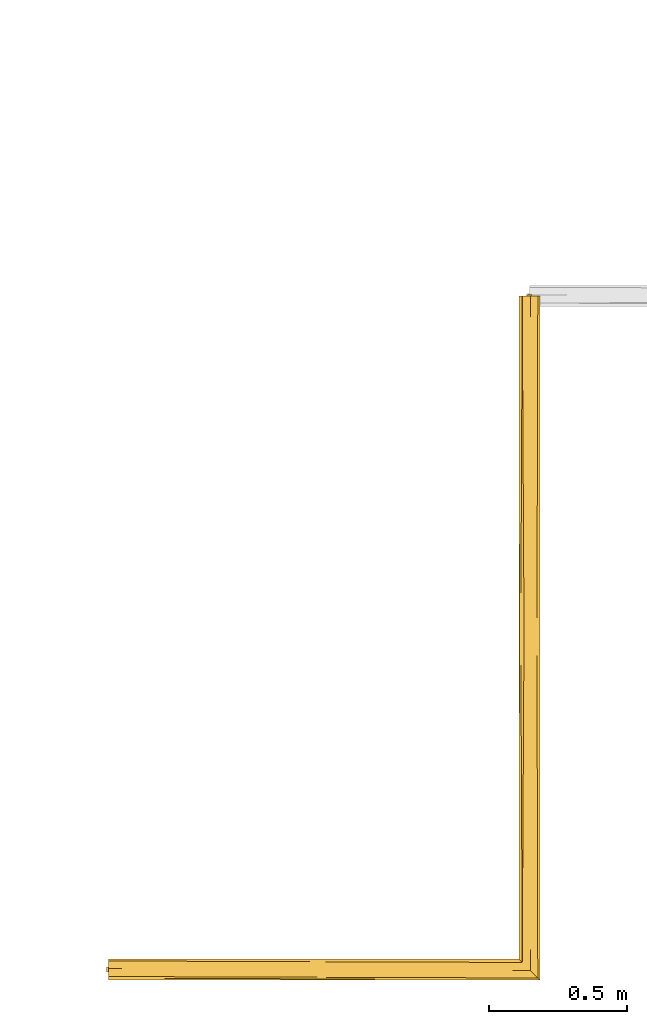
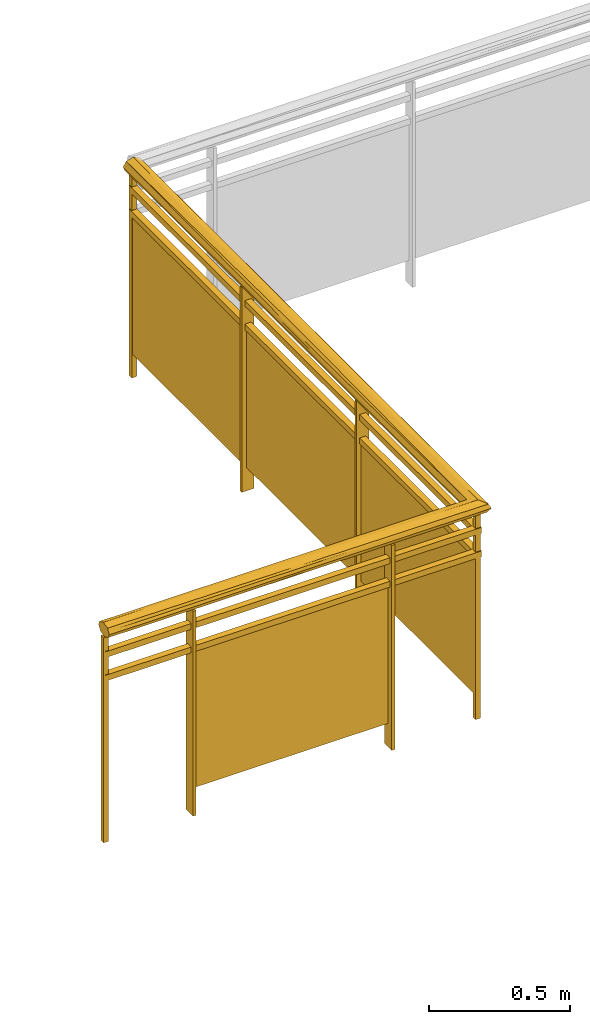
# One storey, part 3 of 3: 1 railing.
"""IFC2X3 building model written with IfcOpenShell, lengths in feet."""

from ifc_helpers import new_model, entity, si_unit, converted_unit, derived_unit, direction, frame, origin, place, context, subcontext, project, spatial, faceted_brep, material, material_list, element, save


model = new_model("IFC2X3")

# Units and contexts
model_context = context("Model", 3, precision=0.0001, world=origin(), true_north=direction((6.12303176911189e-17, 1.0)))
body_context = subcontext(model_context, "Body", "Model", "MODEL_VIEW")
ifc_project = project(units=[converted_unit("LENGTHUNIT", "FOOT", entity("IfcRatioMeasure", 0.3048), si_unit("LENGTHUNIT", "METRE"), dimensions=[1, 0, 0, 0, 0, 0, 0]), converted_unit("AREAUNIT", "SQUARE FOOT", entity("IfcRatioMeasure", 0.09290304), si_unit("AREAUNIT", "SQUARE_METRE"), dimensions=[2, 0, 0, 0, 0, 0, 0]), converted_unit("VOLUMEUNIT", "CUBIC FOOT", entity("IfcRatioMeasure", 0.028316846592), si_unit("VOLUMEUNIT", "CUBIC_METRE"), dimensions=[3, 0, 0, 0, 0, 0, 0]), converted_unit("PLANEANGLEUNIT", "DEGREE", entity("IfcRatioMeasure", 0.0174532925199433), si_unit("PLANEANGLEUNIT", "RADIAN"), dimensions=[0, 0, 0, 0, 0, 0, 0]), si_unit("MASSUNIT", "GRAM", prefix="KILO"), derived_unit("MASSDENSITYUNIT", [(si_unit("MASSUNIT", "GRAM", prefix="KILO"), 1), (si_unit("LENGTHUNIT", "METRE"), -3)]), si_unit("TIMEUNIT", "SECOND"), si_unit("FREQUENCYUNIT", "HERTZ"), si_unit("THERMODYNAMICTEMPERATUREUNIT", "DEGREE_CELSIUS"), derived_unit("THERMALTRANSMITTANCEUNIT", [(si_unit("MASSUNIT", "GRAM", prefix="KILO"), 1), (si_unit("THERMODYNAMICTEMPERATUREUNIT", "KELVIN"), -1), (si_unit("TIMEUNIT", "SECOND"), -3)]), derived_unit("VOLUMETRICFLOWRATEUNIT", [(si_unit("LENGTHUNIT", "METRE"), 3), (si_unit("TIMEUNIT", "SECOND"), -1)]), si_unit("ELECTRICCURRENTUNIT", "AMPERE"), si_unit("ELECTRICVOLTAGEUNIT", "VOLT"), si_unit("POWERUNIT", "WATT"), si_unit("FORCEUNIT", "NEWTON"), si_unit("ILLUMINANCEUNIT", "LUX"), si_unit("LUMINOUSFLUXUNIT", "LUMEN"), si_unit("LUMINOUSINTENSITYUNIT", "CANDELA"), derived_unit("USERDEFINED", [(si_unit("MASSUNIT", "GRAM", prefix="KILO"), -1), (si_unit("LENGTHUNIT", "METRE"), -2), (si_unit("TIMEUNIT", "SECOND"), 3), (si_unit("LUMINOUSFLUXUNIT", "LUMEN"), 1)]), derived_unit("LINEARVELOCITYUNIT", [(si_unit("LENGTHUNIT", "METRE"), 1), (si_unit("TIMEUNIT", "SECOND"), -1)]), si_unit("PRESSUREUNIT", "PASCAL"), derived_unit("USERDEFINED", [(si_unit("LENGTHUNIT", "METRE"), -2), (si_unit("MASSUNIT", "GRAM", prefix="KILO"), 1), (si_unit("TIMEUNIT", "SECOND"), -2)])], contexts=[model_context])

# Site, building, storey
site_placement = place(None, origin())
site = spatial("IfcSite", under=ifc_project, at=site_placement, Name="Default", CompositionType="ELEMENT")
building_placement = place(site_placement, origin())
building = spatial("IfcBuilding", under=site, at=building_placement, CompositionType="ELEMENT")
storey_placement = place(building_placement, frame((0.0, 0.0, 60.0)))
storey = spatial("IfcBuildingStorey", under=building, at=storey_placement, Name="L 11", CompositionType="ELEMENT", Elevation=60.0)

# Railing
ifc_material_1 = material(Name="Glass")
ifc_material_2 = material(Name="alum - color")
ifc_material_list = material_list([ifc_material_1, ifc_material_2])
railing_placement = place(storey_placement, frame((-21.6793294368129, -15.4672084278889, 0.0)))
element("IfcRailing", 1, at=railing_placement, inside=storey, material=ifc_material_list, Name="Railing:Glass Panel - Bottom Fill", ObjectType="Railing:Glass Panel - Bottom Fill", PredefinedType="NOTDEFINED", context=body_context, shape_type="Brep", body=[
    faceted_brep([(1.20833333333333, 0.0469004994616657, 2.90577041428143), (1.20833333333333, 0.0469004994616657, 0.0), (1.20833333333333, 0.213567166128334, 0.0), (1.20833333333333, 0.213567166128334, 2.90577041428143), (1.16666666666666, 0.0469004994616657, 2.90577041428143), (1.16666666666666, 0.0469004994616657, 0.0), (1.16666666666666, 0.213567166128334, 2.90577041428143), (1.16666666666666, 0.213567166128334, 0.0)], [[[0, 1, 2, 3]], [[4, 5, 1, 0]], [[6, 7, 5, 4]], [[3, 2, 7, 6]], [[3, 6, 4, 0]], [[1, 5, 7, 2]]]),
    faceted_brep([(3.85416666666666, 0.15167463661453, 0.333333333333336), (1.18749999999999, 0.15167463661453, 0.333333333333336), (1.18749999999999, 0.15167463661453, 2.29166666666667), (3.85416666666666, 0.15167463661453, 2.29166666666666), (3.85416666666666, 0.130841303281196, 0.333333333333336), (3.85416666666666, 0.130841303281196, 2.29166666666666), (1.18749999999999, 0.130841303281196, 2.29166666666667), (1.18749999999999, 0.130841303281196, 0.333333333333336)], [[[0, 1, 2, 3]], [[4, 5, 6, 7]], [[3, 5, 4, 0]], [[2, 6, 5, 3]], [[1, 7, 6, 2]], [[0, 4, 7, 1]]]),
    faceted_brep([(3.87499999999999, 0.0469004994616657, 2.90577041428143), (3.87499999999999, 0.0469004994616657, 0.0), (3.87499999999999, 0.213567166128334, 0.0), (3.87499999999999, 0.213567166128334, 2.90577041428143), (3.83333333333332, 0.0469004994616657, 2.90577041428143), (3.83333333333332, 0.0469004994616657, 0.0), (3.83333333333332, 0.213567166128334, 2.90577041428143), (3.83333333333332, 0.213567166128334, 0.0)], [[[0, 1, 2, 3]], [[4, 5, 1, 0]], [[6, 7, 5, 4]], [[3, 2, 7, 6]], [[3, 6, 4, 0]], [[1, 5, 7, 2]]]),
    faceted_brep([(4.99939252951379, 2.79690049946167, 0.333333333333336), (4.99939252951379, 0.130233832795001, 0.333333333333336), (4.99939252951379, 0.130233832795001, 2.29166666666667), (4.99939252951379, 2.79690049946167, 2.29166666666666), (5.02022586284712, 2.79690049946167, 0.333333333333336), (5.02022586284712, 2.79690049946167, 2.29166666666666), (5.02022586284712, 0.130233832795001, 2.29166666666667), (5.02022586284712, 0.130233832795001, 0.333333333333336)], [[[0, 1, 2, 3]], [[4, 5, 6, 7]], [[3, 5, 4, 0]], [[2, 6, 5, 3]], [[1, 7, 6, 2]], [[0, 4, 7, 1]]]),
    faceted_brep([(5.10416666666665, 2.817733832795, 2.90577041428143), (5.10416666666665, 2.817733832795, 0.0), (4.93749999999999, 2.817733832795, 0.0), (4.93749999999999, 2.817733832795, 2.90577041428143), (5.10416666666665, 2.77606716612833, 2.90577041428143), (5.10416666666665, 2.77606716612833, 0.0), (4.93749999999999, 2.77606716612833, 2.90577041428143), (4.93749999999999, 2.77606716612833, 0.0)], [[[0, 1, 2, 3]], [[4, 5, 1, 0]], [[6, 7, 5, 4]], [[3, 2, 7, 6]], [[3, 6, 4, 0]], [[1, 5, 7, 2]]]),
    faceted_brep([(4.99939252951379, 5.46356716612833, 0.333333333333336), (4.99939252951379, 2.79690049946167, 0.333333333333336), (4.99939252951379, 2.79690049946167, 2.29166666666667), (4.99939252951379, 5.46356716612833, 2.29166666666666), (5.02022586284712, 5.46356716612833, 0.333333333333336), (5.02022586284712, 5.46356716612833, 2.29166666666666), (5.02022586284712, 2.79690049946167, 2.29166666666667), (5.02022586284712, 2.79690049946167, 0.333333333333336)], [[[0, 1, 2, 3]], [[4, 5, 6, 7]], [[3, 5, 4, 0]], [[2, 6, 5, 3]], [[1, 7, 6, 2]], [[0, 4, 7, 1]]]),
    faceted_brep([(5.10416666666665, 5.48440049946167, 2.90577041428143), (5.10416666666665, 5.48440049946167, 0.0), (4.93749999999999, 5.48440049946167, 0.0), (4.93749999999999, 5.48440049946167, 2.90577041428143), (5.10416666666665, 5.442733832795, 2.90577041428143), (5.10416666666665, 5.442733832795, 0.0), (4.93749999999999, 5.442733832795, 2.90577041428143), (4.93749999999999, 5.442733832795, 0.0)], [[[0, 1, 2, 3]], [[4, 5, 1, 0]], [[6, 7, 5, 4]], [[3, 2, 7, 6]], [[3, 6, 4, 0]], [[1, 5, 7, 2]]]),
    faceted_brep([(4.99939252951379, 8.130233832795, 0.333333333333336), (4.99939252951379, 5.46356716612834, 0.333333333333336), (4.99939252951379, 5.46356716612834, 2.29166666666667), (4.99939252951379, 8.130233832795, 2.29166666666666), (5.02022586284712, 8.130233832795, 0.333333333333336), (5.02022586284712, 8.130233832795, 2.29166666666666), (5.02022586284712, 5.46356716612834, 2.29166666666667), (5.02022586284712, 5.46356716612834, 0.333333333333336)], [[[0, 1, 2, 3]], [[4, 5, 6, 7]], [[3, 5, 4, 0]], [[2, 6, 5, 3]], [[1, 7, 6, 2]], [[0, 4, 7, 1]]]),
    faceted_brep([(5.05208333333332, 0.161483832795, 2.90577041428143), (5.05208333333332, 0.161483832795, 0.0), (4.98958333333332, 0.161483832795, 0.0), (4.98958333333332, 0.161483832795, 2.90577041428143), (5.05208333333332, 0.0989838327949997, 2.90577041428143), (5.05208333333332, 0.0989838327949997, 0.0), (4.98958333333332, 0.0989838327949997, 2.90577041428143), (4.98958333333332, 0.0989838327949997, 0.0)], [[[0, 1, 2, 3]], [[4, 5, 1, 0]], [[6, 7, 5, 4]], [[3, 2, 7, 6]], [[3, 6, 4, 0]], [[1, 5, 7, 2]]]),
    faceted_brep([(0.0625, 0.0989838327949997, 2.90577041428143), (0.0625, 0.0989838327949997, 0.0), (0.0625, 0.161483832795, 0.0), (0.0625, 0.161483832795, 2.90577041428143), (0.0, 0.0989838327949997, 2.90577041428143), (0.0, 0.0989838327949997, 0.0), (0.0, 0.161483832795, 2.90577041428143), (0.0, 0.161483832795, 0.0)], [[[0, 1, 2, 3]], [[4, 5, 1, 0]], [[6, 7, 5, 4]], [[3, 2, 7, 6]], [[3, 6, 4, 0]], [[1, 5, 7, 2]]]),
    faceted_brep([(5.05208333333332, 8.15106716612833, 2.90577041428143), (5.05208333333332, 8.15106716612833, 0.0), (4.98958333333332, 8.15106716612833, 0.0), (4.98958333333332, 8.15106716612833, 2.90577041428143), (5.05208333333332, 8.08856716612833, 2.90577041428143), (5.05208333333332, 8.08856716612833, 0.0), (4.98958333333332, 8.08856716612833, 2.90577041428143), (4.98958333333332, 8.08856716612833, 0.0)], [[[0, 1, 2, 3]], [[4, 5, 1, 0]], [[6, 7, 5, 4]], [[3, 2, 7, 6]], [[3, 6, 4, 0]], [[1, 5, 7, 2]]]),
    faceted_brep([(5.06249999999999, 8.130233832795, 2.70833333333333), (5.06249999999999, 8.130233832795, 2.62499999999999), (4.97916666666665, 8.130233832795, 2.625), (4.97916666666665, 8.130233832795, 2.70833333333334), (4.97916666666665, 0.171900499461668, 2.70833333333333), (5.06249999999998, 0.0885671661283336, 2.70833333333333), (4.97916666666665, 0.171900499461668, 2.625), (5.06249999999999, 0.0885671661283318, 2.625), (0.0208333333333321, 0.0885671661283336, 2.70833333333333), (0.0208333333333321, 0.171900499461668, 2.70833333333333), (0.0208333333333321, 0.171900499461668, 2.625), (0.0208333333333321, 0.0885671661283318, 2.625)], [[[0, 1, 2, 3]], [[0, 3, 4, 5]], [[3, 2, 6, 4]], [[2, 1, 7, 6]], [[1, 0, 5, 7]], [[8, 9, 10, 11]], [[5, 4, 9, 8]], [[4, 6, 10, 9]], [[6, 7, 11, 10]], [[7, 5, 8, 11]]]),
    faceted_brep([(5.06249999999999, 8.130233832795, 2.375), (5.06249999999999, 8.130233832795, 2.29166666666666), (4.97916666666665, 8.130233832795, 2.29166666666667), (4.97916666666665, 8.130233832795, 2.37500000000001), (4.97916666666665, 0.171900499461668, 2.375), (5.06249999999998, 0.0885671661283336, 2.375), (4.97916666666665, 0.171900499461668, 2.29166666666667), (5.06249999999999, 0.0885671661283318, 2.29166666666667), (0.0208333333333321, 0.0885671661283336, 2.375), (0.0208333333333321, 0.171900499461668, 2.375), (0.0208333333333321, 0.171900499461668, 2.29166666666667), (0.0208333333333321, 0.0885671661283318, 2.29166666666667)], [[[0, 1, 2, 3]], [[0, 3, 4, 5]], [[3, 2, 6, 4]], [[2, 1, 7, 6]], [[1, 0, 5, 7]], [[8, 9, 10, 11]], [[5, 4, 9, 8]], [[4, 6, 10, 9]], [[6, 7, 11, 10]], [[7, 5, 8, 11]]]),
    faceted_brep([(5.00776727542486, 8.130233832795, 2.90676357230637), (4.96373674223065, 8.130233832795, 2.92582935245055), (4.91970620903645, 8.130233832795, 2.94489513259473), (4.90776977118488, 8.130233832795, 2.97244756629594), (4.89583333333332, 8.130233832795, 3.0), (4.91651267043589, 8.130233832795, 3.0348349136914), (4.93719200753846, 8.130233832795, 3.06966982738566), (4.98554569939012, 8.130233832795, 3.08145312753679), (5.03389939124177, 8.130233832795, 3.09323642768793), (5.07792992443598, 8.130233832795, 3.07417064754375), (5.12196045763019, 8.130233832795, 3.05510486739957), (5.13389689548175, 8.130233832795, 3.02755243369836), (5.14583333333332, 8.130233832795, 3.0), (5.12515399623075, 8.130233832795, 2.9651650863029), (5.10447465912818, 8.130233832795, 2.93033017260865), (5.05612096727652, 8.130233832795, 2.91854687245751), (5.03389939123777, 4.13676685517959, 2.90676357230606), (4.90776977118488, 0.243297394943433, 2.97244756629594), (4.90949198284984, 4.18079739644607, 2.95738769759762), (4.91970620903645, 0.231360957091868, 2.94489513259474), (5.12515399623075, 0.0259131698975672, 2.96516508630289), (5.12196045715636, 4.08841313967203, 2.9448951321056), (5.13760764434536, 4.07807343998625, 2.96655336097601), (5.10447465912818, 0.0465925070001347, 2.93033017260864), (5.08353660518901, 4.08841318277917, 2.91889832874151), (4.98240730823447, 4.13676686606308, 2.91078958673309), (4.92954232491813, 4.18079739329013, 2.93595969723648), (4.89924080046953, 3.78364768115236, 2.97825962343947), (5.08029781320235, 0.0707693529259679, 2.92443852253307), (5.05612096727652, 0.0949461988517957, 2.91854687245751), (4.96373674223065, 0.187330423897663, 2.92582935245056), (4.95384112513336, 4.20738820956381, 2.92085085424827), (4.90671106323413, 0.244356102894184, 2.97489134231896), (4.89583333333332, 0.255233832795, 3.0), (5.00776727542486, 0.143299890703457, 2.90676357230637), (4.89583333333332, 4.55774049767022, 3.0), (4.89583333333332, 4.61312962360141, 3.0), (5.14583333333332, 3.57772891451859, 3.0), (5.14583333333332, 3.52232689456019, 3.0), (5.14583333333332, 0.00523383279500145, 3.0), (5.03194412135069, 0.119123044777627, 2.91265522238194), (4.98554569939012, 0.165521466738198, 3.08145312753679), (5.03389939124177, 0.117167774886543, 3.09323642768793), (5.00776727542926, 4.14787766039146, 3.09323642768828), (5.13220914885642, 4.0796702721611, 3.04256160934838), (5.12196045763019, 0.0291067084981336, 3.05510486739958), (5.13389689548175, 0.0171702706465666, 3.02755243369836), (5.13732804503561, 0.0137391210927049, 3.01963243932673), (4.91651267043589, 0.234554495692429, 3.0348349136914), (4.93719200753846, 0.213875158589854, 3.06966982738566), (4.91976425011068, 4.17205446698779, 3.05516473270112), (4.95833333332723, 4.17205450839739, 3.08118988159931), (5.14248572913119, 4.56614973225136, 3.02155117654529), (5.07792992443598, 0.0731372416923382, 3.07417064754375), (5.05966322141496, 4.10168553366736, 3.08911199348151), (4.90446656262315, 4.18239410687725, 3.03423628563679), (5.11132213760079, 4.07967026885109, 3.06467755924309), (5.08751696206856, 4.29614994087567, 3.07929558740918), (4.9096181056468, 0.241449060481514, 3.02322082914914), (0.0208333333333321, 0.234554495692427, 2.9651650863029), (0.0208333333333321, 0.213875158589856, 2.93033017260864), (0.0208333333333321, 0.165521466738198, 2.91854687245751), (0.0208333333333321, 0.117167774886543, 2.90676357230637), (0.0208333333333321, 0.0731372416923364, 2.92582935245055), (0.0208333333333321, 0.0291067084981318, 2.94489513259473), (0.0208333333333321, 0.0171702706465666, 2.97244756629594), (0.0208333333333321, 0.00523383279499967, 3.0), (0.0208333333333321, 0.0259131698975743, 3.0348349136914), (0.0208333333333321, 0.0465925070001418, 3.06966982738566), (0.0208333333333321, 0.094946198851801, 3.08145312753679), (0.0208333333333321, 0.143299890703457, 3.09323642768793), (0.0208333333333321, 0.187330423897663, 3.07417064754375), (0.0208333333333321, 0.231360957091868, 3.05510486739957), (0.0208333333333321, 0.243297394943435, 3.02755243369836), (0.0208333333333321, 0.255233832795, 3.0), (2.55056556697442, 0.0564588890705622, 2.92431961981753), (2.89626214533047, 0.0307681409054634, 2.94321961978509), (2.24295494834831, 0.197520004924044, 2.9209912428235), (2.43610950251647, 0.223804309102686, 2.93783786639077), (2.52687111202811, 0.0145921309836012, 2.96440859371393), (2.43656163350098, 0.132589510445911, 2.9062666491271), (2.32621046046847, 0.0979297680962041, 2.90943475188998), (2.74510676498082, 0.242343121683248, 2.95853573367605), (2.84265886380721, 0.165863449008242, 2.91013907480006), (2.05852276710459, 0.255233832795, 3.0), (2.78807614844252, 0.255233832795, 3.0), (2.8581440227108, 0.00523383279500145, 3.0), (2.37859063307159, 0.00523383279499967, 3.0), (2.24867187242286, 0.241609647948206, 3.04256160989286), (2.4506910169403, 0.222558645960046, 3.06320114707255), (2.24461549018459, 0.251872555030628, 3.02159454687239), (2.80128551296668, 0.195707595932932, 3.0798606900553), (2.76071940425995, 0.0180983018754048, 3.04142433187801), (2.54570818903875, 0.13079257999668, 3.09374906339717), (2.22597134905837, 0.164339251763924, 3.09019298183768), (2.80818823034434, 0.0959444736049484, 3.09015374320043), (2.58446056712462, 0.0376121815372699, 3.06295636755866), (2.26544877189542, 0.0639929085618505, 3.07950403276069)], [[[0, 1, 2, 3, 4, 5, 6, 7, 8, 9, 10, 11, 12, 13, 14, 15]], [[16, 0, 15]], [[17, 18, 19]], [[20, 21, 22]], [[2, 18, 3]], [[22, 13, 12]], [[23, 24, 21]], [[16, 25, 0]], [[19, 18, 26]], [[17, 27, 18]], [[24, 23, 28, 29]], [[30, 31, 25]], [[2, 26, 18]], [[27, 17, 32, 33]], [[31, 1, 25]], [[24, 16, 15]], [[34, 30, 25]], [[27, 4, 3]], [[21, 14, 13]], [[19, 26, 30]], [[26, 2, 1]], [[27, 33, 35, 36, 4]], [[18, 27, 3]], [[34, 25, 16]], [[0, 25, 1]], [[14, 21, 24]], [[23, 21, 20]], [[21, 13, 22]], [[22, 12, 37, 38, 39]], [[14, 24, 15]], [[16, 29, 40, 34]], [[29, 16, 24]], [[31, 26, 1]], [[26, 31, 30]], [[20, 22, 39]], [[41, 42, 43]], [[44, 45, 46, 47]], [[48, 49, 50]], [[47, 39, 38]], [[50, 6, 5]], [[7, 6, 51]], [[49, 41, 51]], [[52, 38, 37, 12]], [[52, 11, 44]], [[53, 54, 42]], [[8, 54, 9]], [[11, 10, 44]], [[50, 5, 55]], [[7, 43, 8]], [[10, 56, 44]], [[9, 56, 10]], [[52, 44, 47]], [[55, 4, 36, 35, 33]], [[45, 44, 56]], [[56, 53, 45]], [[57, 54, 53]], [[11, 52, 12]], [[38, 52, 47]], [[43, 7, 51]], [[49, 51, 50]], [[54, 8, 43]], [[41, 43, 51]], [[50, 55, 48]], [[6, 50, 51]], [[5, 4, 55]], [[43, 42, 54]], [[9, 54, 57]], [[55, 33, 58, 48]], [[57, 56, 9]], [[56, 57, 53]], [[59, 60, 61, 62, 63, 64, 65, 66, 67, 68, 69, 70, 71, 72, 73, 74]], [[75, 76, 64]], [[77, 60, 78]], [[79, 65, 64]], [[62, 80, 81]], [[82, 32, 17, 19]], [[80, 83, 34]], [[80, 40, 81]], [[77, 61, 60]], [[83, 77, 30]], [[30, 77, 78]], [[32, 84, 85, 33]], [[19, 78, 82]], [[60, 59, 78]], [[82, 59, 84]], [[30, 78, 19]], [[74, 84, 59]], [[82, 78, 59]], [[32, 82, 84]], [[61, 77, 83]], [[62, 61, 80]], [[34, 83, 30]], [[83, 80, 61]], [[28, 23, 75]], [[28, 75, 81]], [[63, 81, 75]], [[81, 63, 62]], [[29, 28, 81, 40]], [[80, 34, 40]], [[75, 64, 63]], [[79, 20, 39]], [[86, 79, 39]], [[76, 75, 23]], [[76, 23, 20]], [[76, 79, 64]], [[76, 20, 79]], [[65, 86, 87, 66]], [[65, 79, 86]], [[73, 72, 88]], [[89, 49, 48]], [[48, 90, 88]], [[89, 48, 88]], [[90, 85, 84, 74]], [[58, 33, 85]], [[71, 91, 89]], [[91, 41, 49]], [[87, 92, 67]], [[70, 93, 94]], [[93, 69, 95]], [[96, 68, 67]], [[49, 89, 91]], [[69, 93, 70]], [[89, 88, 72]], [[90, 48, 58]], [[89, 72, 71]], [[91, 71, 94]], [[41, 91, 94]], [[73, 88, 90]], [[73, 90, 74]], [[85, 90, 58]], [[95, 69, 97]], [[70, 94, 71]], [[42, 41, 93]], [[94, 93, 41]], [[68, 96, 97]], [[95, 42, 93]], [[95, 53, 42]], [[53, 95, 97]], [[45, 92, 46]], [[68, 97, 69]], [[45, 53, 96]], [[97, 96, 53]], [[67, 66, 87]], [[67, 92, 96]], [[46, 87, 86, 39, 47]], [[96, 92, 45]], [[46, 92, 87]]]),
])

save(model, "model.ifc")
